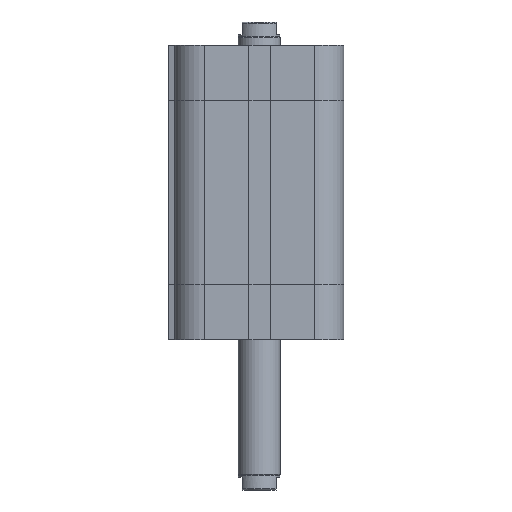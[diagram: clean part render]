
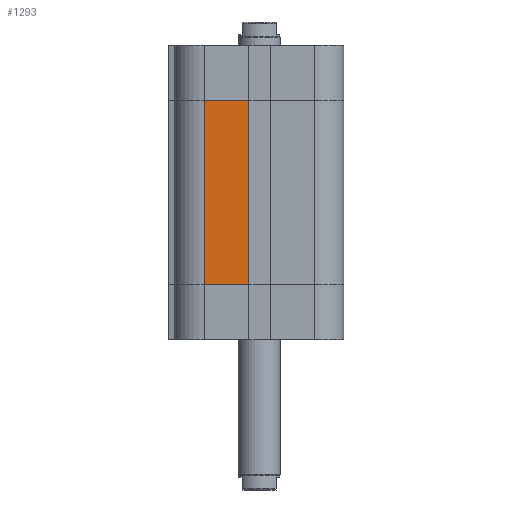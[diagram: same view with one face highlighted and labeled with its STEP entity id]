
A CAD part, left-side view. The second image highlights one B-rep face of the part: STEP entity #1293.
In plain terms, the highlighted planar face has unit normal (-1, 0, 0).
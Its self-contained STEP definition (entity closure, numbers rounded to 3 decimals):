
#1204=CARTESIAN_POINT('',(-20.,13.,13.));
#1205=VERTEX_POINT('',#1204);
#1213=CARTESIAN_POINT('',(-20.,13.,56.5));
#1214=VERTEX_POINT('',#1213);
#1215=CARTESIAN_POINT('',(-20.,13.,13.));
#1216=DIRECTION('',(0.0,0.0,1.0));
#1217=VECTOR('',#1216,43.5);
#1218=LINE('',#1215,#1217);
#1219=EDGE_CURVE('',#1205,#1214,#1218,.T.);
#1263=CARTESIAN_POINT('',(-20.0,2.6,0.0));
#1264=DIRECTION('',(-1.0,0.0,0.0));
#1265=DIRECTION('',(0.0,0.0,1.0));
#1266=AXIS2_PLACEMENT_3D('',#1263,#1264,#1265);
#1267=PLANE('',#1266);
#1268=CARTESIAN_POINT('',(-20.0,2.6,13.));
#1269=VERTEX_POINT('',#1268);
#1270=CARTESIAN_POINT('',(-20.,13.,13.));
#1271=DIRECTION('',(0.0,-1.0,0.0));
#1272=VECTOR('',#1271,10.4);
#1273=LINE('',#1270,#1272);
#1274=EDGE_CURVE('',#1205,#1269,#1273,.T.);
#1275=ORIENTED_EDGE('',*,*,#1274,.T.);
#1276=CARTESIAN_POINT('',(-20.0,2.6,56.5));
#1277=VERTEX_POINT('',#1276);
#1278=CARTESIAN_POINT('',(-20.0,2.6,13.));
#1279=DIRECTION('',(0.0,0.0,1.0));
#1280=VECTOR('',#1279,43.5);
#1281=LINE('',#1278,#1280);
#1282=EDGE_CURVE('',#1269,#1277,#1281,.T.);
#1283=ORIENTED_EDGE('',*,*,#1282,.T.);
#1284=CARTESIAN_POINT('',(-20.,13.,56.5));
#1285=DIRECTION('',(0.0,-1.0,0.0));
#1286=VECTOR('',#1285,10.4);
#1287=LINE('',#1284,#1286);
#1288=EDGE_CURVE('',#1214,#1277,#1287,.T.);
#1289=ORIENTED_EDGE('',*,*,#1288,.F.);
#1290=ORIENTED_EDGE('',*,*,#1219,.F.);
#1291=EDGE_LOOP('',(#1275,#1283,#1289,#1290));
#1292=FACE_OUTER_BOUND('',#1291,.T.);
#1293=ADVANCED_FACE('',(#1292),#1267,.T.);
